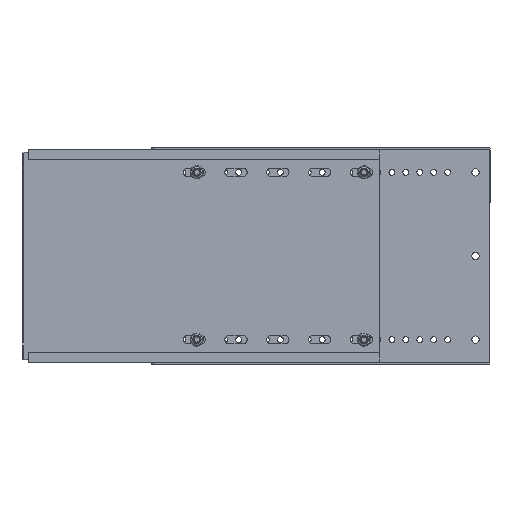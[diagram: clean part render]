
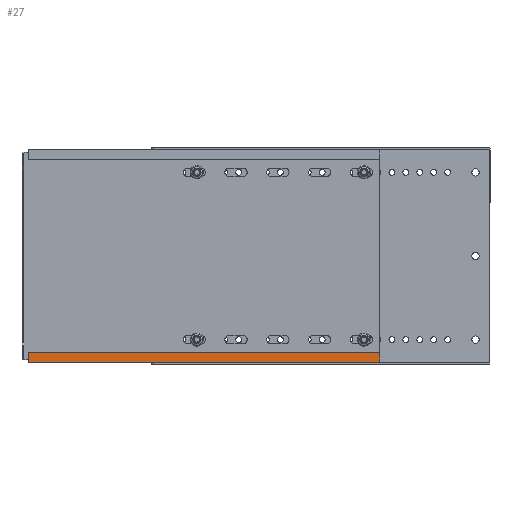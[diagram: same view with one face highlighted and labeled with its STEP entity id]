
A CAD part, front view. The second image highlights one B-rep face of the part: STEP entity #27.
In plain terms, the highlighted planar face has unit normal (0, -1, 0).
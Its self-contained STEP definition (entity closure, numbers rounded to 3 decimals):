
#27 = ADVANCED_FACE ( 'NONE', ( #6567 ), #878, .T. ) ;
#93 = LINE ( 'NONE', #6418, #597 ) ;
#242 = DIRECTION ( 'NONE',  ( 0., -1., 0. ) ) ;
#317 = VERTEX_POINT ( 'NONE', #4065 ) ;
#331 = LINE ( 'NONE', #7900, #6016 ) ;
#541 = LINE ( 'NONE', #8128, #4478 ) ;
#597 = VECTOR ( 'NONE', #5801, 1000. ) ;
#821 = ORIENTED_EDGE ( 'NONE', *, *, #6728, .T. ) ;
#878 = PLANE ( 'NONE',  #2664 ) ;
#1945 = CARTESIAN_POINT ( 'NONE',  ( -98.75, -1.6, -95.25 ) ) ;
#2664 = AXIS2_PLACEMENT_3D ( 'NONE', #3424, #242, #4695 ) ;
#2899 = EDGE_CURVE ( 'NONE', #6449, #7101, #5199, .T. ) ;
#3424 = CARTESIAN_POINT ( 'NONE',  ( -256.25, -1.6, -90.2 ) ) ;
#3723 = DIRECTION ( 'NONE',  ( 1., 0., 0. ) ) ;
#3859 = EDGE_CURVE ( 'NONE', #7101, #6637, #331, .T. ) ;
#3936 = ORIENTED_EDGE ( 'NONE', *, *, #3859, .F. ) ;
#3957 = ORIENTED_EDGE ( 'NONE', *, *, #2899, .F. ) ;
#4065 = CARTESIAN_POINT ( 'NONE',  ( -413.75, -1.6, -95.25 ) ) ;
#4069 = DIRECTION ( 'NONE',  ( 1., 0., 0. ) ) ;
#4360 = EDGE_LOOP ( 'NONE', ( #3957, #5800, #821, #3936 ) ) ;
#4478 = VECTOR ( 'NONE', #3723, 1000. ) ;
#4695 = DIRECTION ( 'NONE',  ( 0., 0., -1. ) ) ;
#5199 = LINE ( 'NONE', #5844, #8070 ) ;
#5399 = DIRECTION ( 'NONE',  ( 0., 0., -1. ) ) ;
#5585 = EDGE_CURVE ( 'NONE', #317, #6449, #93, .T. ) ;
#5800 = ORIENTED_EDGE ( 'NONE', *, *, #5585, .F. ) ;
#5801 = DIRECTION ( 'NONE',  ( 0., 0., 1. ) ) ;
#5844 = CARTESIAN_POINT ( 'NONE',  ( -256.25, -1.6, -86.7 ) ) ;
#6016 = VECTOR ( 'NONE', #5399, 1000. ) ;
#6418 = CARTESIAN_POINT ( 'NONE',  ( -413.75, -1.6, -90.2 ) ) ;
#6449 = VERTEX_POINT ( 'NONE', #7772 ) ;
#6567 = FACE_OUTER_BOUND ( 'NONE', #4360, .T. ) ;
#6637 = VERTEX_POINT ( 'NONE', #1945 ) ;
#6728 = EDGE_CURVE ( 'NONE', #317, #6637, #541, .T. ) ;
#7101 = VERTEX_POINT ( 'NONE', #8097 ) ;
#7772 = CARTESIAN_POINT ( 'NONE',  ( -413.75, -1.6, -86.7 ) ) ;
#7900 = CARTESIAN_POINT ( 'NONE',  ( -98.75, -1.6, -90.2 ) ) ;
#8070 = VECTOR ( 'NONE', #4069, 1000. ) ;
#8097 = CARTESIAN_POINT ( 'NONE',  ( -98.75, -1.6, -86.7 ) ) ;
#8128 = CARTESIAN_POINT ( 'NONE',  ( -422.845, -1.6, -95.25 ) ) ;
